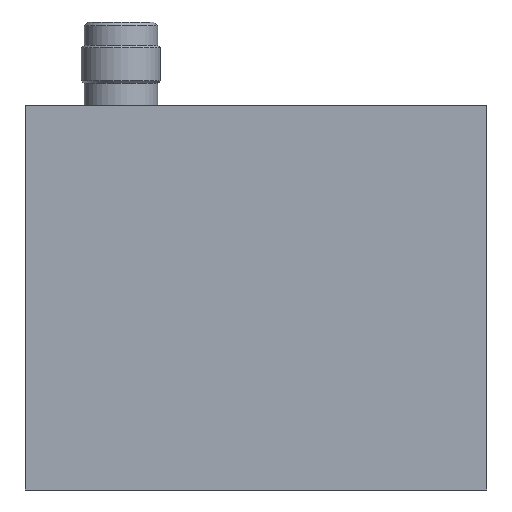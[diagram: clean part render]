
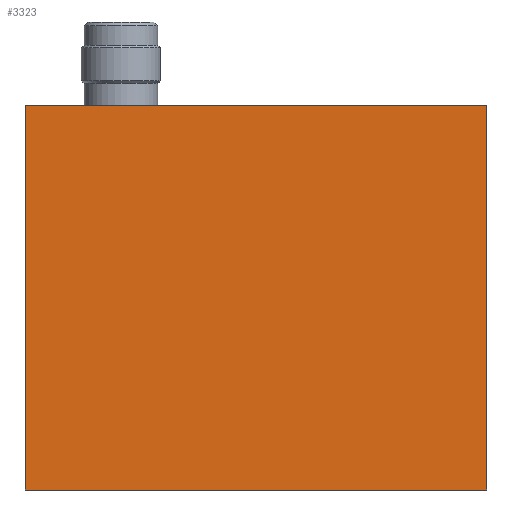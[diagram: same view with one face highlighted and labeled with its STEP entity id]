
A CAD part, front view. The second image highlights one B-rep face of the part: STEP entity #3323.
In plain terms, the highlighted planar face has unit normal (0, -1, 0).
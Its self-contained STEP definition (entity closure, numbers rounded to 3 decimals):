
#260=PLANE('',#3776);
#374=FACE_OUTER_BOUND('',#562,.T.);
#562=EDGE_LOOP('',(#2398,#2399,#2400,#2401));
#794=LINE('',#5316,#1057);
#795=LINE('',#5318,#1058);
#796=LINE('',#5320,#1059);
#797=LINE('',#5321,#1060);
#1057=VECTOR('',#4278,10.);
#1058=VECTOR('',#4279,10.);
#1059=VECTOR('',#4280,10.);
#1060=VECTOR('',#4281,10.);
#1496=VERTEX_POINT('',#5314);
#1497=VERTEX_POINT('',#5315);
#1498=VERTEX_POINT('',#5317);
#1499=VERTEX_POINT('',#5319);
#1857=EDGE_CURVE('',#1496,#1497,#794,.T.);
#1858=EDGE_CURVE('',#1498,#1497,#795,.T.);
#1859=EDGE_CURVE('',#1498,#1499,#796,.T.);
#1860=EDGE_CURVE('',#1499,#1496,#797,.T.);
#2398=ORIENTED_EDGE('',*,*,#1857,.T.);
#2399=ORIENTED_EDGE('',*,*,#1858,.F.);
#2400=ORIENTED_EDGE('',*,*,#1859,.T.);
#2401=ORIENTED_EDGE('',*,*,#1860,.T.);
#3323=ADVANCED_FACE('',(#374),#260,.T.);
#3776=AXIS2_PLACEMENT_3D('',#5313,#4276,#4277);
#4276=DIRECTION('center_axis',(0.,-1.,0.));
#4277=DIRECTION('ref_axis',(0.,0.,-1.));
#4278=DIRECTION('',(1.,0.,0.));
#4279=DIRECTION('',(0.,0.,-1.));
#4280=DIRECTION('',(-1.,0.,0.));
#4281=DIRECTION('',(0.,0.,-1.));
#5313=CARTESIAN_POINT('Origin',(-30.,-20.,0.));
#5314=CARTESIAN_POINT('',(-30.,-20.,-50.));
#5315=CARTESIAN_POINT('',(30.,-20.,-50.));
#5316=CARTESIAN_POINT('',(30.,-20.,-50.));
#5317=CARTESIAN_POINT('',(30.,-20.,0.));
#5318=CARTESIAN_POINT('',(30.,-20.,0.));
#5319=CARTESIAN_POINT('',(-30.,-20.,0.));
#5320=CARTESIAN_POINT('',(30.,-20.,0.));
#5321=CARTESIAN_POINT('',(-30.,-20.,0.));
